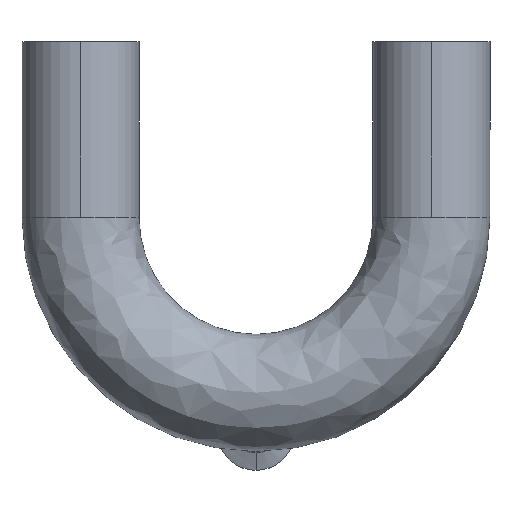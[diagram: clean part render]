
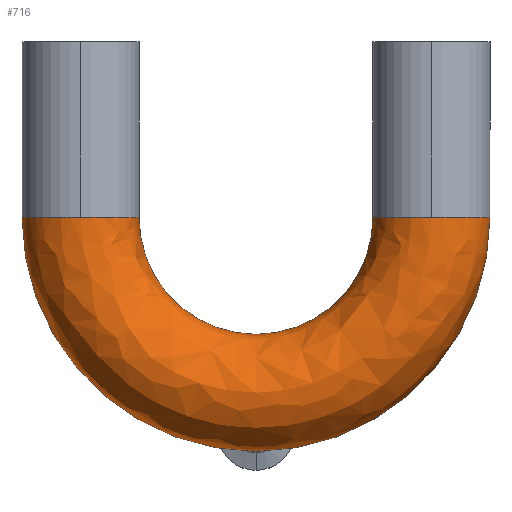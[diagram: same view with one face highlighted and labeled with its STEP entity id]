
A CAD part, top view. The second image highlights one B-rep face of the part: STEP entity #716.
In plain terms, the highlighted free-form (B-spline) face has degree [3, 3] with [4, 4] control points.
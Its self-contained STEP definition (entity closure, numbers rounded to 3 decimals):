
#11 = AXIS2_PLACEMENT_3D ( 'NONE', #1549, #757, #1696 ) ;
#19 = AXIS2_PLACEMENT_3D ( 'NONE', #411, #1097, #1102 ) ;
#86 = EDGE_CURVE ( 'NONE', #1049, #382, #1159, .T. ) ;
#92 = AXIS2_PLACEMENT_3D ( 'NONE', #791, #1737, #917 ) ;
#140 = DIRECTION ( 'NONE',  ( 0., 0., -1. ) ) ;
#158 = CARTESIAN_POINT ( 'NONE',  ( 0., 57.15, 0. ) ) ;
#178 = CARTESIAN_POINT ( 'NONE',  ( 57.15, 57.15, 0. ) ) ;
#184 = AXIS2_PLACEMENT_3D ( 'NONE', #178, #1692, #1687 ) ;
#241 = AXIS2_PLACEMENT_3D ( 'NONE', #320, #1283, #471 ) ;
#320 = CARTESIAN_POINT ( 'NONE',  ( -57.15, 57.15, 0. ) ) ;
#382 = VERTEX_POINT ( 'NONE', #844 ) ;
#411 = CARTESIAN_POINT ( 'NONE',  ( 0., 57.15, 0. ) ) ;
#471 = DIRECTION ( 'NONE',  ( -1., 0., 0. ) ) ;
#528 = DIRECTION ( 'NONE',  ( -1., 0., 0. ) ) ;
#553 = ORIENTED_EDGE ( 'NONE', *, *, #1339, .T. ) ;
#559 = VERTEX_POINT ( 'NONE', #1740 ) ;
#574 = CARTESIAN_POINT ( 'NONE',  ( 76.2, 57.15, 0. ) ) ;
#653 = EDGE_LOOP ( 'NONE', ( #553, #916, #1374, #1154, #1214, #988, #963 ) ) ;
#662 = CIRCLE ( 'NONE', #922, 76.2 ) ;
#675 = CARTESIAN_POINT ( 'NONE',  ( -57.15, 57.15, 0. ) ) ;
#699 = VERTEX_POINT ( 'NONE', #1048 ) ;
#716 = ADVANCED_FACE ( 'NONE', ( #1072 ), #1363, .T. ) ;
#746 = CIRCLE ( 'NONE', #19, 38.1 ) ;
#757 = DIRECTION ( 'NONE',  ( 0., 0., -1. ) ) ;
#780 = VERTEX_POINT ( 'NONE', #855 ) ;
#791 = CARTESIAN_POINT ( 'NONE',  ( 57.15, 57.15, 0. ) ) ;
#840 = CARTESIAN_POINT ( 'NONE',  ( 38.1, 57.15, 0. ) ) ;
#844 = CARTESIAN_POINT ( 'NONE',  ( -57.15, 57.15, 19.05 ) ) ;
#855 = CARTESIAN_POINT ( 'NONE',  ( 0., -19.05, 0. ) ) ;
#898 = CARTESIAN_POINT ( 'NONE',  ( 76.2, 57.15, 38.1 ) ) ;
#903 = CARTESIAN_POINT ( 'NONE',  ( -76.2, 57.15, 0. ) ) ;
#914 = CARTESIAN_POINT ( 'NONE',  ( -76.2, -95.25, 0. ) ) ;
#916 = ORIENTED_EDGE ( 'NONE', *, *, #1294, .T. ) ;
#917 = DIRECTION ( 'NONE',  ( 1., 0., 0. ) ) ;
#922 = AXIS2_PLACEMENT_3D ( 'NONE', #158, #140, #1759 ) ;
#963 = ORIENTED_EDGE ( 'NONE', *, *, #1683, .T. ) ;
#976 = CARTESIAN_POINT ( 'NONE',  ( 76.2, -95.25, 38.1 ) ) ;
#988 = ORIENTED_EDGE ( 'NONE', *, *, #1399, .F. ) ;
#1038 = CIRCLE ( 'NONE', #92, 19.05 ) ;
#1048 = CARTESIAN_POINT ( 'NONE',  ( -76.2, 57.15, 0. ) ) ;
#1049 = VERTEX_POINT ( 'NONE', #1645 ) ;
#1057 = CARTESIAN_POINT ( 'NONE',  ( 76.2, -95.25, 0. ) ) ;
#1071 = VERTEX_POINT ( 'NONE', #840 ) ;
#1072 = FACE_OUTER_BOUND ( 'NONE', #653, .T. ) ;
#1084 = CARTESIAN_POINT ( 'NONE',  ( -76.2, -95.25, 38.1 ) ) ;
#1094 = CARTESIAN_POINT ( 'NONE',  ( -76.2, 57.15, 38.1 ) ) ;
#1097 = DIRECTION ( 'NONE',  ( 0., 0., -1. ) ) ;
#1101 = CARTESIAN_POINT ( 'NONE',  ( 38.1, 57.15, 38.1 ) ) ;
#1102 = DIRECTION ( 'NONE',  ( -1., 0., 0. ) ) ;
#1113 = VERTEX_POINT ( 'NONE', #574 ) ;
#1122 = CIRCLE ( 'NONE', #241, 19.05 ) ;
#1130 = CARTESIAN_POINT ( 'NONE',  ( 38.1, -19.05, 38.1 ) ) ;
#1154 = ORIENTED_EDGE ( 'NONE', *, *, #1613, .T. ) ;
#1159 = CIRCLE ( 'NONE', #1648, 19.05 ) ;
#1214 = ORIENTED_EDGE ( 'NONE', *, *, #1623, .F. ) ;
#1245 = CARTESIAN_POINT ( 'NONE',  ( -38.1, -19.05, 38.1 ) ) ;
#1265 = CARTESIAN_POINT ( 'NONE',  ( -38.1, 57.15, 38.1 ) ) ;
#1283 = DIRECTION ( 'NONE',  ( 0., -1., 0. ) ) ;
#1294 = EDGE_CURVE ( 'NONE', #1071, #1049, #746, .T. ) ;
#1328 = CARTESIAN_POINT ( 'NONE',  ( 38.1, 57.15, 0. ) ) ;
#1339 = EDGE_CURVE ( 'NONE', #559, #1071, #1366, .T. ) ;
#1344 = CARTESIAN_POINT ( 'NONE',  ( 38.1, -19.05, 0. ) ) ;
#1363 =( BOUNDED_SURFACE ( )  B_SPLINE_SURFACE ( 3, 3, ( 
 ( #1726, #1057, #914, #903 ),
 ( #898, #976, #1084, #1094 ),
 ( #1101, #1130, #1245, #1265 ),
 ( #1328, #1344, #1364, #1391 ) ),
 .UNSPECIFIED., .F., .F., .F. ) 
 B_SPLINE_SURFACE_WITH_KNOTS ( ( 4, 4 ),
 ( 4, 4 ),
 ( 0., 1. ),
 ( 0., 1. ),
 .UNSPECIFIED. ) 
 GEOMETRIC_REPRESENTATION_ITEM ( )  RATIONAL_B_SPLINE_SURFACE ( (
 ( 1., 0.333, 0.333, 1.),
 ( 0.333, 0.111, 0.111, 0.333),
 ( 0.333, 0.111, 0.111, 0.333),
 ( 1., 0.333, 0.333, 1.) ) ) 
 REPRESENTATION_ITEM ( '' )  SURFACE ( )  );
#1364 = CARTESIAN_POINT ( 'NONE',  ( -38.1, -19.05, 0. ) ) ;
#1366 = CIRCLE ( 'NONE', #184, 19.05 ) ;
#1374 = ORIENTED_EDGE ( 'NONE', *, *, #86, .T. ) ;
#1391 = CARTESIAN_POINT ( 'NONE',  ( -38.1, 57.15, 0. ) ) ;
#1399 = EDGE_CURVE ( 'NONE', #1113, #780, #662, .T. ) ;
#1428 = CIRCLE ( 'NONE', #11, 76.2 ) ;
#1474 = DIRECTION ( 'NONE',  ( 0., -1., 0. ) ) ;
#1549 = CARTESIAN_POINT ( 'NONE',  ( 0., 57.15, 0. ) ) ;
#1613 = EDGE_CURVE ( 'NONE', #382, #699, #1122, .T. ) ;
#1623 = EDGE_CURVE ( 'NONE', #780, #699, #1428, .T. ) ;
#1645 = CARTESIAN_POINT ( 'NONE',  ( -38.1, 57.15, 0. ) ) ;
#1648 = AXIS2_PLACEMENT_3D ( 'NONE', #675, #1474, #528 ) ;
#1683 = EDGE_CURVE ( 'NONE', #1113, #559, #1038, .T. ) ;
#1687 = DIRECTION ( 'NONE',  ( 1., 0., 0. ) ) ;
#1692 = DIRECTION ( 'NONE',  ( 0., -1., 0. ) ) ;
#1696 = DIRECTION ( 'NONE',  ( -1., 0., 0. ) ) ;
#1726 = CARTESIAN_POINT ( 'NONE',  ( 76.2, 57.15, 0. ) ) ;
#1737 = DIRECTION ( 'NONE',  ( 0., -1., 0. ) ) ;
#1740 = CARTESIAN_POINT ( 'NONE',  ( 57.15, 57.15, 19.05 ) ) ;
#1759 = DIRECTION ( 'NONE',  ( -1., 0., 0. ) ) ;
